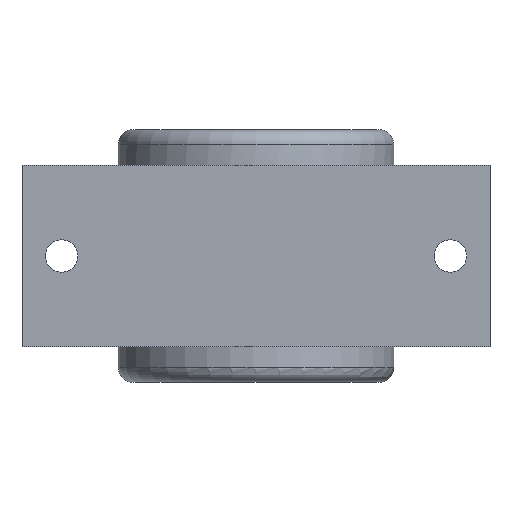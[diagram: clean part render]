
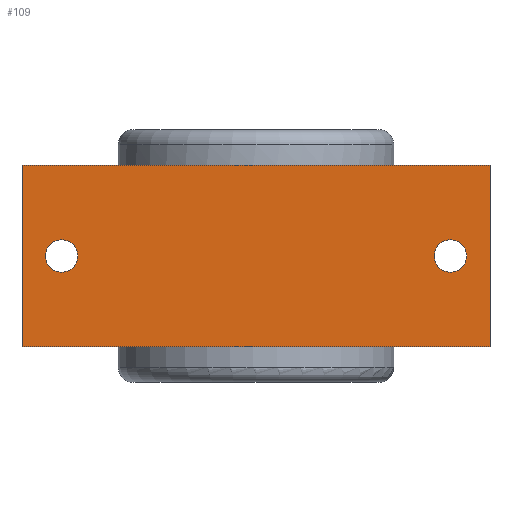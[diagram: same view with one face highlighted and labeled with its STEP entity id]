
A CAD part, front view. The second image highlights one B-rep face of the part: STEP entity #109.
In plain terms, the highlighted planar face has unit normal (0, -1, 0).
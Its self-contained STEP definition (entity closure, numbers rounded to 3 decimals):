
#109=ADVANCED_FACE('',(#219,#220,#221),#222,.T.);
#219=FACE_BOUND('',#361,.T.);
#220=FACE_OUTER_BOUND('',#362,.T.);
#221=FACE_BOUND('',#363,.T.);
#222=PLANE('',#364);
#361=EDGE_LOOP('',(#684));
#362=EDGE_LOOP('',(#685,#686,#687,#688));
#363=EDGE_LOOP('',(#689));
#364=AXIS2_PLACEMENT_3D('',#690,#691,#692);
#684=ORIENTED_EDGE('',*,*,#952,.T.);
#685=ORIENTED_EDGE('',*,*,#994,.F.);
#686=ORIENTED_EDGE('',*,*,#995,.F.);
#687=ORIENTED_EDGE('',*,*,#996,.T.);
#688=ORIENTED_EDGE('',*,*,#992,.T.);
#689=ORIENTED_EDGE('',*,*,#951,.T.);
#690=CARTESIAN_POINT('',(62.0,0.,24.0));
#691=DIRECTION('',(0.0,-1.0,0.0));
#692=DIRECTION('',(1.0,0.0,0.0));
#951=EDGE_CURVE('',#1149,#1149,#1150,.F.);
#952=EDGE_CURVE('',#1151,#1151,#1152,.F.);
#992=EDGE_CURVE('',#1215,#1213,#1216,.T.);
#994=EDGE_CURVE('',#1218,#1213,#1219,.T.);
#995=EDGE_CURVE('',#1220,#1218,#1221,.T.);
#996=EDGE_CURVE('',#1220,#1215,#1222,.T.);
#1149=VERTEX_POINT('',#1438);
#1150=CIRCLE('',#1439,4.3);
#1151=VERTEX_POINT('',#1440);
#1152=CIRCLE('',#1441,4.3);
#1213=VERTEX_POINT('',#1531);
#1215=VERTEX_POINT('',#1534);
#1216=LINE('',#1535,#1536);
#1218=VERTEX_POINT('',#1539);
#1219=LINE('',#1540,#1541);
#1220=VERTEX_POINT('',#1542);
#1221=LINE('',#1543,#1544);
#1222=LINE('',#1545,#1546);
#1438=CARTESIAN_POINT('',(51.5,0.0,-4.3));
#1439=AXIS2_PLACEMENT_3D('',#1739,#1740,#1741);
#1440=CARTESIAN_POINT('',(-51.5,0.0,-4.3));
#1441=AXIS2_PLACEMENT_3D('',#1742,#1743,#1744);
#1531=CARTESIAN_POINT('',(-62.0,0.0,-24.0));
#1534=CARTESIAN_POINT('',(-62.0,0.0,24.0));
#1535=CARTESIAN_POINT('',(-62.0,0.0,24.0));
#1536=VECTOR('',#1802,1.0);
#1539=CARTESIAN_POINT('',(62.0,0.,-24.0));
#1540=CARTESIAN_POINT('',(62.0,0.,-24.0));
#1541=VECTOR('',#1804,1.0);
#1542=CARTESIAN_POINT('',(62.0,0.,24.0));
#1543=CARTESIAN_POINT('',(62.0,0.,24.0));
#1544=VECTOR('',#1805,1.0);
#1545=CARTESIAN_POINT('',(62.0,0.,24.0));
#1546=VECTOR('',#1806,1.0);
#1739=CARTESIAN_POINT('',(51.5,0.0,0.));
#1740=DIRECTION('',(0.0,-1.0,0.0));
#1741=DIRECTION('',(0.0,0.0,-1.0));
#1742=CARTESIAN_POINT('',(-51.5,0.0,0.));
#1743=DIRECTION('',(0.0,-1.0,0.0));
#1744=DIRECTION('',(0.0,0.0,-1.0));
#1802=DIRECTION('',(0.0,0.0,-1.0));
#1804=DIRECTION('',(-1.0,0.0,0.0));
#1805=DIRECTION('',(0.0,0.0,-1.0));
#1806=DIRECTION('',(-1.0,0.0,0.0));
